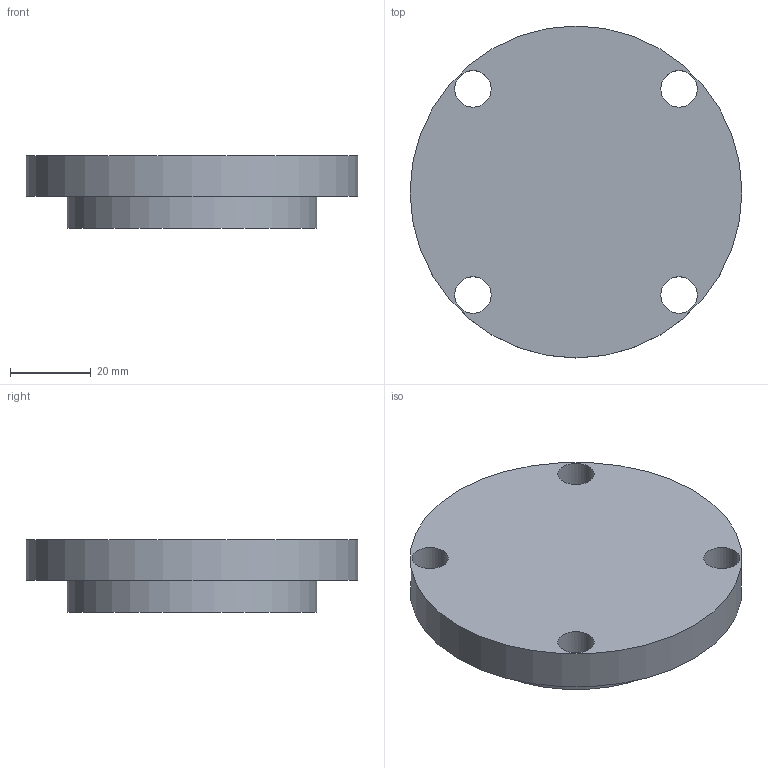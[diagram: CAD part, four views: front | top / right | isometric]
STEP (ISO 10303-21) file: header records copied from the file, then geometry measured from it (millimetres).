
FILE_DESCRIPTION(('Open CASCADE Model'),'2;1');
FILE_NAME('Open CASCADE Shape Model','2026-09-15T22:58:05',('Author'),( 'Open CASCADE'),'Open CASCADE STEP processor 7.9','build123d', 'Unknown');
FILE_SCHEMA(('AUTOMOTIVE_DESIGN { 1 0 10303 214 1 1 1 1 }'));
Length unit declared in the file: millimetre
Products named in the file (1): COMPOUND
Bounding box: 82 x 82 x 18 mm (x, y, z)
Volume: 74107.4 mm3; surface area: 15308.4 mm2
Topology: 1 solids, 1 shells, 9 faces, 18 edges, 12 vertices
Faces by surface type: cylinder 6, plane 3
Full cylindrical faces by diameter (mm): 9 x4, 61.6 x1, 82 x1
Entity records: 504 total; most frequent: DIRECTION 86, CARTESIAN_POINT 76, ORIENTED_EDGE 36, PCURVE 36, DEFINITIONAL_REPRESENTATION 36, LINE 30, VECTOR 30, CIRCLE 24
